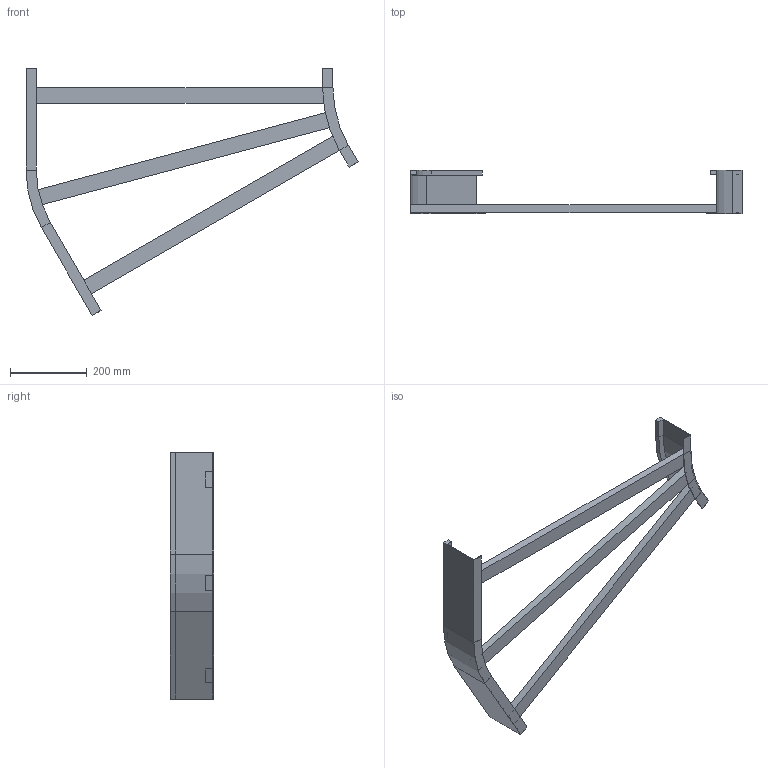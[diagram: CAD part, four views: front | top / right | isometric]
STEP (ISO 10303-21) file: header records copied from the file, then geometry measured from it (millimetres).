
FILE_DESCRIPTION (( 'STEP AP214' ), '1' );
FILE_NAME ('B2_12B3J800.step', '2025-02-21T15:09:46', ( '' ), ( '' ), 'SwSTEP 2.0', 'SolidWorks 2023', '' );
FILE_SCHEMA (( 'AUTOMOTIVE_DESIGN' ));
Length unit declared in the file: millimetre
Products named in the file (5): B2_12B3J800; TRAVERSINO_800; B2_LONGH.INTERNO 30°_H112.5_R300; TRAVERSINO_L823; B2_LONGH.ESTERNO 30°_H112.5_R300+800
Assembly tree (5 placements, depth 2):
  B2_12B3J800
    B2_LONGH.INTERNO 30°_H112.5_R300
    B2_LONGH.ESTERNO 30°_H112.5_R300+800
    TRAVERSINO_800  x2
    TRAVERSINO_L823
Bounding box: 865.19 x 112.5 x 643.3 mm (x, y, z)
Volume: 2396474 mm3; surface area: 592178 mm2
Topology: 5 solids, 5 shells, 70 faces, 148 edges, 88 vertices
Faces by surface type: plane 62, cylinder 8
Entity records: 1822 total; most frequent: DIRECTION 296, CARTESIAN_POINT 288, ORIENTED_EDGE 272, EDGE_CURVE 136, LINE 120, VECTOR 120, AXIS2_PLACEMENT_3D 88, VERTEX_POINT 80
